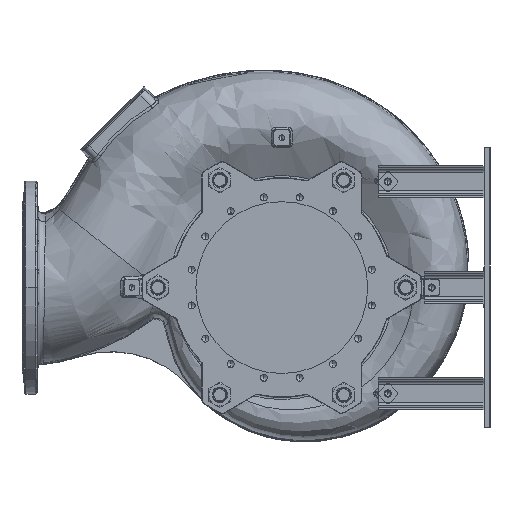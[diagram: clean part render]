
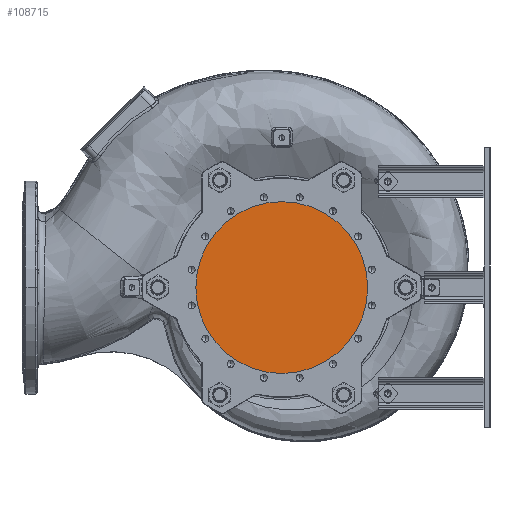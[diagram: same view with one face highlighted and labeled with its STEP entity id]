
A CAD part, left-side view. The second image highlights one B-rep face of the part: STEP entity #108715.
In plain terms, the highlighted planar face has unit normal (-1, 0, 0).
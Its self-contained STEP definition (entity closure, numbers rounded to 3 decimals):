
#5708 = VERTEX_POINT ( 'NONE', #141022 ) ;
#37615 = DIRECTION ( 'NONE',  ( -1., 0., 0. ) ) ;
#44496 = CARTESIAN_POINT ( 'NONE',  ( -610.194, 0., 0. ) ) ;
#58882 = DIRECTION ( 'NONE',  ( 0., 0.866, -0.5 ) ) ;
#69002 = FACE_OUTER_BOUND ( 'NONE', #179894, .T. ) ;
#73165 = AXIS2_PLACEMENT_3D ( 'NONE', #123660, #37615, #138072 ) ;
#78661 = CARTESIAN_POINT ( 'NONE',  ( -610.194, 0., 0. ) ) ;
#79886 = CARTESIAN_POINT ( 'NONE',  ( -610.194, -186.195, 107.5 ) ) ;
#84728 = EDGE_CURVE ( 'NONE', #5708, #86609, #170399, .T. ) ;
#86609 = VERTEX_POINT ( 'NONE', #79886 ) ;
#93132 = DIRECTION ( 'NONE',  ( 0., 0.866, -0.5 ) ) ;
#102475 = ORIENTED_EDGE ( 'NONE', *, *, #111246, .T. ) ;
#108715 = ADVANCED_FACE ( 'NONE', ( #69002 ), #180243, .T. ) ;
#111246 = EDGE_CURVE ( 'NONE', #86609, #5708, #156231, .T. ) ;
#123660 = CARTESIAN_POINT ( 'NONE',  ( -610.194, 0., 0. ) ) ;
#126452 = AXIS2_PLACEMENT_3D ( 'NONE', #44496, #144971, #58882 ) ;
#138072 = DIRECTION ( 'NONE',  ( 0., 0.866, -0.5 ) ) ;
#141022 = CARTESIAN_POINT ( 'NONE',  ( -610.194, 186.195, -107.5 ) ) ;
#144971 = DIRECTION ( 'NONE',  ( -1., 0., 0. ) ) ;
#149473 = AXIS2_PLACEMENT_3D ( 'NONE', #78661, #179257, #93132 ) ;
#156231 = CIRCLE ( 'NONE', #149473, 215. ) ;
#161631 = ORIENTED_EDGE ( 'NONE', *, *, #84728, .T. ) ;
#170399 = CIRCLE ( 'NONE', #126452, 215. ) ;
#179257 = DIRECTION ( 'NONE',  ( -1., 0., 0. ) ) ;
#179894 = EDGE_LOOP ( 'NONE', ( #102475, #161631 ) ) ;
#180243 = PLANE ( 'NONE',  #73165 ) ;
